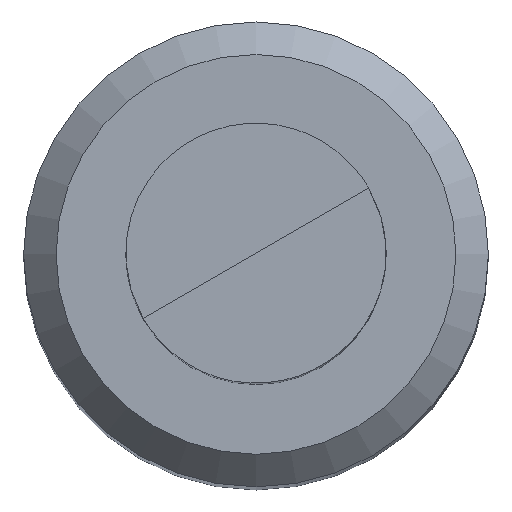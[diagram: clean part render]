
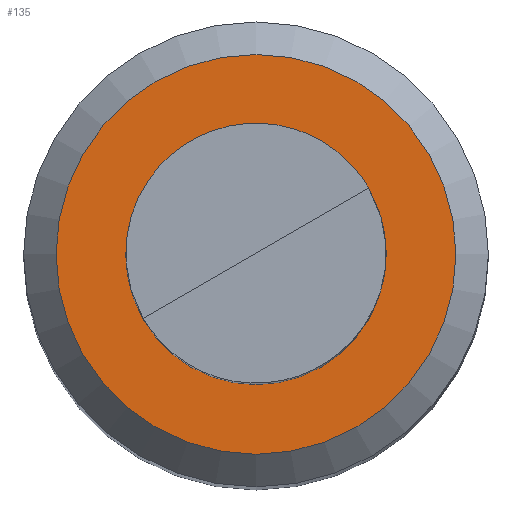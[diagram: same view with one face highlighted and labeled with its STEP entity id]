
A CAD part, top view. The second image highlights one B-rep face of the part: STEP entity #135.
In plain terms, the highlighted planar face has unit normal (0, 0, 1).
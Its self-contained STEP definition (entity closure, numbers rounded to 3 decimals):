
#73=CARTESIAN_POINT('',(4.3,0.,40.0));
#74=VERTEX_POINT('',#73);
#75=CARTESIAN_POINT('',(0.0,0.0,40.0));
#76=DIRECTION('',(0.0,0.0,-1.0));
#77=DIRECTION('',(-1.0,0.0,0.0));
#78=AXIS2_PLACEMENT_3D('',#75,#76,#77);
#79=CIRCLE('',#78,4.3);
#80=EDGE_CURVE('',#74,#74,#79,.T.);
#116=CARTESIAN_POINT('',(0.0,0.0,40.0));
#117=DIRECTION('',(0.0,0.0,-1.0));
#118=DIRECTION('',(-1.0,0.0,0.0));
#119=AXIS2_PLACEMENT_3D('',#116,#117,#118);
#120=PLANE('',#119);
#121=ORIENTED_EDGE('',*,*,#80,.F.);
#122=EDGE_LOOP('',(#121));
#123=FACE_OUTER_BOUND('',#122,.T.);
#124=CARTESIAN_POINT('',(2.8,0.,40.0));
#125=VERTEX_POINT('',#124);
#126=CARTESIAN_POINT('',(0.0,0.0,40.0));
#127=DIRECTION('',(0.0,0.0,-1.0));
#128=DIRECTION('',(-1.0,0.0,0.0));
#129=AXIS2_PLACEMENT_3D('',#126,#127,#128);
#130=CIRCLE('',#129,2.8);
#131=EDGE_CURVE('',#125,#125,#130,.T.);
#132=ORIENTED_EDGE('',*,*,#131,.T.);
#133=EDGE_LOOP('',(#132));
#134=FACE_BOUND('',#133,.T.);
#135=ADVANCED_FACE('',(#123,#134),#120,.F.);
